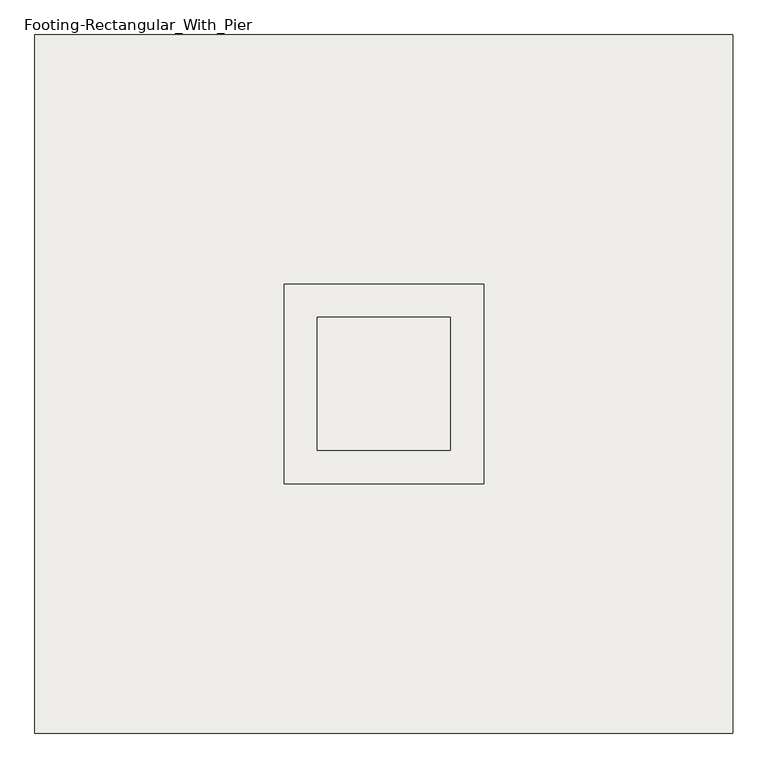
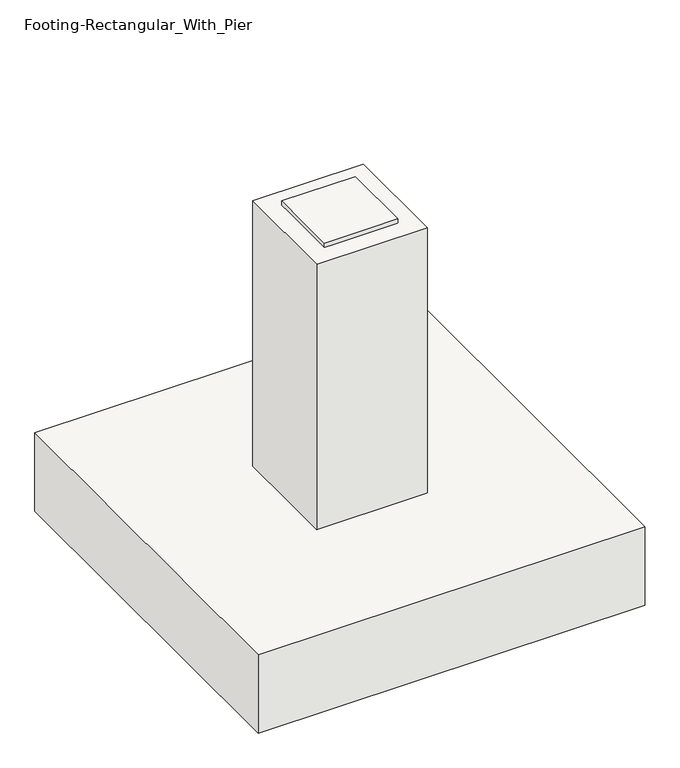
"""IFC4 building model written with IfcOpenShell, lengths in millimetres: slab geometry."""

import ifcopenshell
import ifcopenshell.guid

model = None  # the IFC model being written
_history = None  # IfcOwnerHistory: only IFC2X3 demands one
_inside = {}  # id of a spatial element -> (the spatial element, [elements in it])
_under = {}  # id of a project, library or spatial element -> (it, [spatial elements below it])
_declared = {}  # id of a project -> (the project, [libraries it declares])
_typed = {}  # id of a type object -> (the type object, [elements of that type])
_made_of = {}  # id of a material, layer set ... -> (it, [elements and type objects made of it])


def new_model(schema):
    """Start an empty IFC model of exactly this schema.

    Asked for "IFC4X3", IfcOpenShell would pick the latest addendum, in which some entities
    have other attributes; the version numbers below select the first issue.
    IFC2X3 requires an IfcOwnerHistory on every rooted entity: one is made here for all.
    """
    global model, _history
    if schema == "IFC4X3":
        model = ifcopenshell.file(schema_version=(4, 3, 0, 0))
    else:
        model = ifcopenshell.file(schema=schema)
    _inside.clear()
    _under.clear()
    _declared.clear()
    _typed.clear()
    _made_of.clear()
    _history = None
    if model.schema == "IFC2X3":
        org = make("IfcOrganization", Name="unknown")
        user = make(
            "IfcPersonAndOrganization",
            ThePerson=make("IfcPerson", FamilyName="unknown"),
            TheOrganization=org,
        )
        app = make(
            "IfcApplication",
            ApplicationDeveloper=org,
            Version="unknown",
            ApplicationFullName="unknown",
            ApplicationIdentifier="unknown",
        )
        _history = make(
            "IfcOwnerHistory",
            OwningUser=user,
            OwningApplication=app,
            ChangeAction="ADDED",
            CreationDate=0,
        )
    return model


def make(cls, **values):
    """One entity of the class cls with the attributes given. An attribute that is None is left unset."""
    return model.create_entity(
        cls, **{name: value for name, value in values.items() if value is not None}
    )


def rooted(cls, **values):
    """An entity with a GlobalId (a new one), such as an element, a storey or a relation."""
    return make(cls, GlobalId=ifcopenshell.guid.new(), OwnerHistory=_history, **values)


def si_unit(unit_type, name, prefix=None):
    """IfcSIUnit, for example si_unit("LENGTHUNIT", "METRE", prefix="MILLI")."""
    return make("IfcSIUnit", UnitType=unit_type, Prefix=prefix, Name=name)


def assignment(units):
    """IfcUnitAssignment: the units of a project."""
    return None if units is None else make("IfcUnitAssignment", Units=units)


def point(xyz):
    """IfcCartesianPoint."""
    return None if xyz is None else make("IfcCartesianPoint", Coordinates=xyz)


def direction(xyz):
    """IfcDirection."""
    return None if xyz is None else make("IfcDirection", DirectionRatios=xyz)


def frame(location, z_axis=None, x_axis=None):
    """IfcAxis2Placement3D, a coordinate frame: its origin and axes. An axis left out is left unset."""
    return make(
        "IfcAxis2Placement3D",
        Location=point(location),
        Axis=direction(z_axis),
        RefDirection=direction(x_axis),
    )


def origin():
    """The frame at (0, 0, 0) with its axes left unset."""
    return frame((0.0, 0.0, 0.0))


def origin_with_axes():
    """The frame at (0, 0, 0) with the z axis (0, 0, 1) and the x axis (1, 0, 0) written out."""
    return frame((0.0, 0.0, 0.0), z_axis=(0.0, 0.0, 1.0), x_axis=(1.0, 0.0, 0.0))


def place(relative_to, where):
    """IfcLocalPlacement: puts the frame where relative to a parent placement (None: the world)."""
    return make(
        "IfcLocalPlacement", PlacementRelTo=relative_to, RelativePlacement=where
    )


def context(
    kind, dimensions, precision=None, world=None, true_north=None, identifier=None
):
    """IfcGeometricRepresentationContext, for example the 3D "Model" context."""
    return make(
        "IfcGeometricRepresentationContext",
        ContextIdentifier=identifier,
        ContextType=kind,
        CoordinateSpaceDimension=dimensions,
        Precision=precision,
        WorldCoordinateSystem=world,
        TrueNorth=true_north,
    )


def project(units=None, contexts=None):
    """IfcProject with its units and contexts."""
    return rooted(
        "IfcProject",
        Name="project",
        RepresentationContexts=contexts,
        UnitsInContext=assignment(units),
    )


def spatial(cls, under=None, at=None, **own):
    """A site, building, storey or space (cls), placed at a placement, below another one or the project."""
    s = rooted(cls, ObjectPlacement=at, **own)
    if under is not None:
        _under.setdefault(under.id(), (under, []))[1].append(s)
    return s


def polyline(points):
    """IfcPolyline through the points."""
    return make("IfcPolyline", Points=[point(p) for p in points])


def outline(outer, holes=None, kind="AREA"):
    """IfcArbitraryClosedProfileDef: a profile drawn as a closed curve; with holes, ...WithVoids."""
    if holes is None:
        return make("IfcArbitraryClosedProfileDef", ProfileType=kind, OuterCurve=outer)
    return make(
        "IfcArbitraryProfileDefWithVoids",
        ProfileType=kind,
        OuterCurve=outer,
        InnerCurves=holes,
    )


def extrude(swept, where, along, depth):
    """IfcExtrudedAreaSolid: the profile swept, set in the frame where, extruded along a direction by depth."""
    return make(
        "IfcExtrudedAreaSolid",
        SweptArea=swept,
        Position=where,
        ExtrudedDirection=direction(along),
        Depth=depth,
    )


def shape(context_of_items, identifier, shape_type, items):
    """IfcShapeRepresentation: the items that make up one representation, for example the "Body"."""
    return make(
        "IfcShapeRepresentation",
        ContextOfItems=context_of_items,
        RepresentationIdentifier=identifier,
        RepresentationType=shape_type,
        Items=items,
    )


def source(mapping_origin, context_of_items, identifier, shape_type, items):
    """IfcRepresentationMap: a shape defined once, which mapped items show again and again."""
    return make(
        "IfcRepresentationMap",
        MappingOrigin=mapping_origin,
        MappedRepresentation=shape(context_of_items, identifier, shape_type, items),
    )


def transform(
    local_origin,
    x_axis=None,
    y_axis=None,
    z_axis=None,
    scale=None,
    scale2=None,
    scale3=None,
    uniform=True,
):
    """IfcCartesianTransformationOperator3D, or its non-uniform kind. x_axis, y_axis, z_axis: its Axis1, 2, 3."""
    if uniform:
        return make(
            "IfcCartesianTransformationOperator3D",
            Axis1=direction(x_axis),
            Axis2=direction(y_axis),
            LocalOrigin=point(local_origin),
            Scale=scale,
            Axis3=direction(z_axis),
        )
    return make(
        "IfcCartesianTransformationOperator3DnonUniform",
        Axis1=direction(x_axis),
        Axis2=direction(y_axis),
        LocalOrigin=point(local_origin),
        Scale=scale,
        Axis3=direction(z_axis),
        Scale2=scale2,
        Scale3=scale3,
    )


def mapped(mapping_source, mapping_target):
    """IfcMappedItem: shows the shape of a source again, moved by a transform."""
    return make(
        "IfcMappedItem", MappingSource=mapping_source, MappingTarget=mapping_target
    )


def made_of(thing, what):
    """Note that an element or type object is made of a material, layer set ...; save() writes the relation."""
    if what is not None:
        _made_of.setdefault(what.id(), (what, []))[1].append(thing)
    return thing


def element(
    cls,
    number,
    at=None,
    inside=None,
    cuts=None,
    type_object=None,
    material=None,
    context=None,
    identifier="Body",
    shape_type=None,
    held_by="IfcProductDefinitionShape",
    body=None,
    shapes=None,
    **own,
):
    """One element of the class cls, such as IfcWall. Its Tag is "e" and its number.

    at: its placement. inside: the storey or other place that contains it. cuts: it is an
    opening in that element (IfcRelVoidsElement). A single representation is given by context,
    identifier, shape_type and body (its items); several are given by shapes. held_by: the class
    of the entity that holds the representations. save() writes the other relations.
    """
    e = rooted(cls, Tag="e%d" % number, ObjectPlacement=at, **own)
    if body is not None:
        shapes = [shape(context, identifier, shape_type, body)]
    if shapes is not None:
        e.Representation = make(held_by, Representations=shapes)
    if inside is not None:
        _inside.setdefault(inside.id(), (inside, []))[1].append(e)
    if cuts is not None:
        rooted(
            "IfcRelVoidsElement", RelatingBuildingElement=cuts, RelatedOpeningElement=e
        )
    if type_object is not None:
        _typed.setdefault(type_object.id(), (type_object, []))[1].append(e)
    return made_of(e, material)


def aggregate(whole, parts):
    """IfcRelAggregates: a whole, such as a stair, and the parts it consists of."""
    return rooted("IfcRelAggregates", RelatingObject=whole, RelatedObjects=parts)


def save(model, path):
    """Write the relations noted so far, then the file.

    IfcRelAggregates (storeys below a building ...), IfcRelContainedInSpatialStructure (elements
    in a storey), IfcRelDefinesByType, IfcRelAssociatesMaterial and IfcRelDeclares: one each for
    every whole, place, type object, material and project.
    """
    for whole, parts in _under.values():
        aggregate(whole, parts)
    for where, things in _inside.values():
        rooted(
            "IfcRelContainedInSpatialStructure",
            RelatedElements=things,
            RelatingStructure=where,
        )
    for kind, things in _typed.values():
        rooted("IfcRelDefinesByType", RelatedObjects=things, RelatingType=kind)
    for what, things in _made_of.values():
        rooted("IfcRelAssociatesMaterial", RelatedObjects=things, RelatingMaterial=what)
    for by, libraries in _declared.values():
        rooted("IfcRelDeclares", RelatingContext=by, RelatedDefinitions=libraries)
    model.write(path)


def footing_rectangular_with_pier_64681127(model_context):
    return source(origin(), model_context, "Body", "SweptSolid", [
        extrude(outline(polyline([(203.2, 203.2), (203.2, -203.2), (-203.2, -203.2), (-203.2, 203.2), (203.2, 203.2)])), frame((0.0, 0.0, 1549.4), z_axis=(0.0, 0.0, 1.0), x_axis=(1.0, 0.0, 0.0)), (0.0, 0.0, 1.0), 25.4),
        extrude(outline(polyline([(1066.8, 1066.8), (1066.8, -1066.8), (-1066.8, -1066.8), (-1066.8, 1066.8), (1066.8, 1066.8)])), frame((0.0, 0.0, -457.2), z_axis=(0.0, 0.0, 1.0), x_axis=(1.0, 0.0, 0.0)), (0.0, 0.0, 1.0), 457.2),
        extrude(outline(polyline([(304.8, 304.8), (304.8, -304.8), (-304.8, -304.8), (-304.8, 304.8), (304.8, 304.8)])), origin_with_axes(), (0.0, 0.0, 1.0), 1549.4),
    ])


if __name__ == "__main__":
    model = new_model("IFC4")
    model_context = context("Model", 3, world=origin())
    ifc_project = project(units=[si_unit("LENGTHUNIT", "METRE", prefix="MILLI")], contexts=[model_context])
    site = spatial("IfcSite", under=ifc_project)
    building = spatial("IfcBuilding", under=site)
    placement = place(None, origin())
    footing_rectangular_with_pier_shape = footing_rectangular_with_pier_64681127(model_context)
    element("IfcSlab", 1, ObjectType="Footing-Rectangular_With_Pier : F6 - 7'-0\" x 7'-0\" x 1'-6\"", at=placement, inside=building, context=model_context, shape_type="MappedRepresentation", body=[
        mapped(footing_rectangular_with_pier_shape, transform((0.0, 0.0, 0.0), x_axis=(1.0, 0.0, 0.0), y_axis=(0.0, 1.0, 0.0), z_axis=(0.0, 0.0, 1.0))),
    ])
    save(model, "model.ifc")
